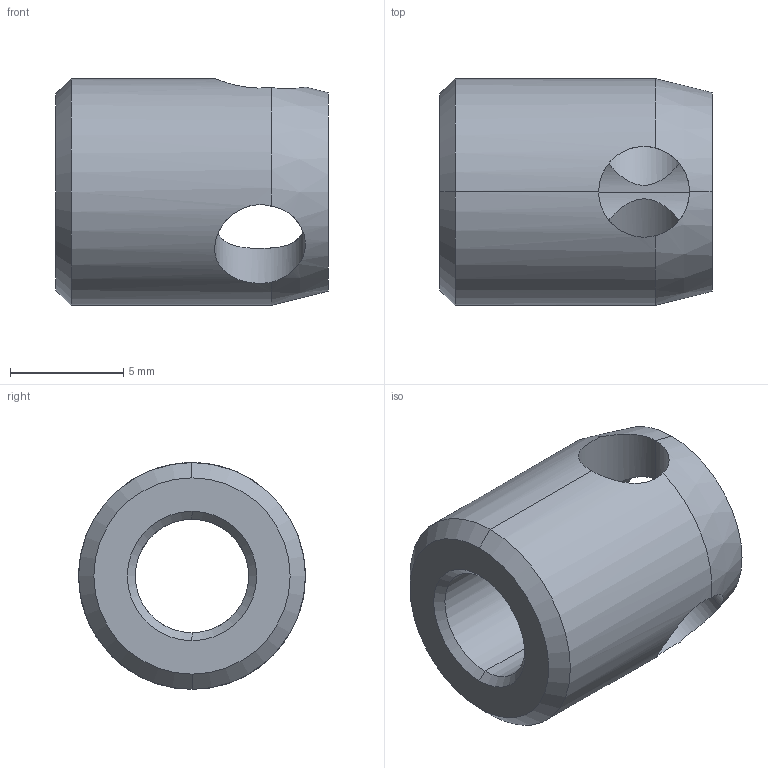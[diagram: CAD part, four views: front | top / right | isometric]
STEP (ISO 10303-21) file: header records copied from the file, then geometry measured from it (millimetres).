
FILE_DESCRIPTION (( 'STEP AP203' ), '1' );
FILE_NAME ('FSUK-SCRS-M06-12.STEP', '2021-08-05T12:54:13', ( '' ), ( '' ), 'SwSTEP 2.0', 'SolidWorks 2021', '' );
FILE_SCHEMA (( 'CONFIG_CONTROL_DESIGN' ));
Length unit declared in the file: millimetre
Products named in the file (1): FSUK-SCRS-M06-12
Bounding box: 12 x 10 x 10 mm (x, y, z)
Volume: 577.8 mm3; surface area: 662.5 mm2
Topology: 1 solids, 1 shells, 20 faces, 55 edges, 33 vertices
Faces by surface type: cylinder 10, cone 8, plane 2
Entity records: 1016 total; most frequent: CARTESIAN_POINT 439, ORIENTED_EDGE 110, DIRECTION 97, EDGE_CURVE 55, AXIS2_PLACEMENT_3D 39, VERTEX_POINT 33, EDGE_LOOP 24, FACE_OUTER_BOUND 20
